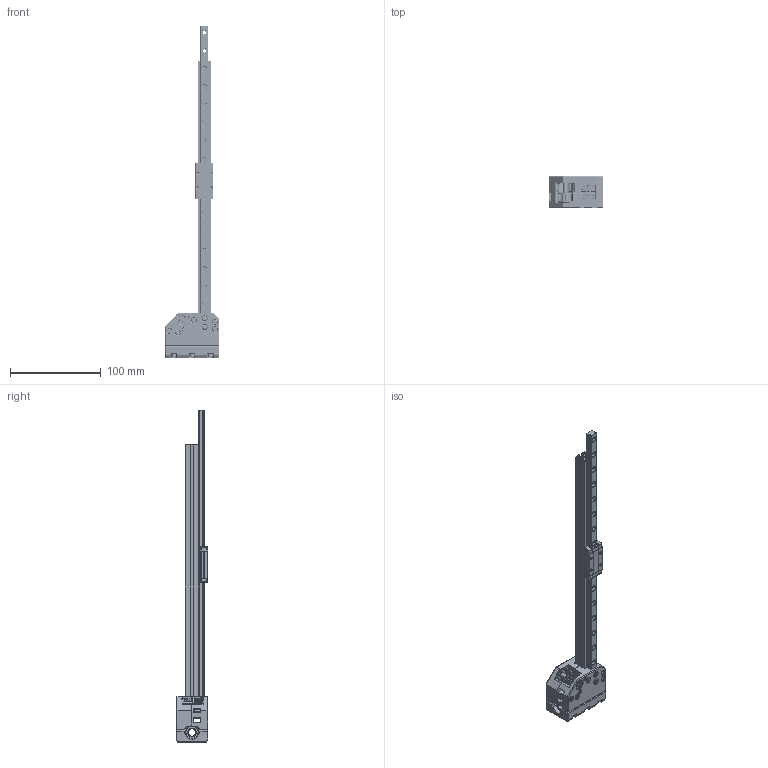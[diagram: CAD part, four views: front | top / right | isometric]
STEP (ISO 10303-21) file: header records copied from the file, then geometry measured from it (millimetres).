
FILE_DESCRIPTION(/* description */ ('FreeCAD Model'),/* implementation_level */ '2;1');
FILE_NAME(/* name */ 'Proosa MGN9 Y-carriers - LM8UU - Live idlers.step',/* time_stamp */ '2026-07-08T19:08:29+02:00',/* author */ (''),/* organization */ (''),/* preprocessor_version */ 'ST-DEVELOPER v20.1',/* originating_system */ 'Autodesk Translation Framework v15.8.0.0',/* authorisation */ '');
FILE_SCHEMA (('AUTOMOTIVE_DESIGN { 1 0 10303 214 3 1 1 }'));
Products named in the file (33): y-carrier-common; 1515 with MGN9H; HIWIN MGN09H1R315Z0HM; MGNR09R315HM; MGN09HZ0HM; 103172; Hardware; Screws; socket head cap screw_am_B18.3.1M - 3 x 0.5 x 30 Hex SHCS -- 18NHX; M3x14-Screw089; VITE_TESTA_BOMBATA_ESAGONO_INCASSATO; VITE_TESTA_BOMBATA_ESAGONO_INCASSATO_1; M3x8-Screw082; Heat inserts; Knurled Insert M3xH4; Componente4; Washer; 0.5mm_shim^drive_core_sherpa_mini_a3_r9c; flat washer narrow_am_B18.22M - Plain washer, 3 mm, narrow; Dowel pins; M3x16 dowel pin; M5x30 dowel pin; Nuts; M3-Nut078; Bearings; F623RS bearing stack; flat washer narrow_am_B18.22M - Plain washer, 3 mm, narrow_1; F623ZZ Flange Bearing; F695 Bearing; 3.Linear Bearing-LM8UU; Pulleys; GT2 20T5B_dz2020; y-carrier-cap004
Assembly tree (67 placements, depth 4):
  y-carrier-common
    1515 with MGN9H
      HIWIN MGN09H1R315Z0HM
        MGNR09R315HM
        MGN09HZ0HM
      103172
    Hardware
      Screws
        socket head cap screw_am_B18.3.1M - 3 x 0.5 x 30 Hex SHCS -- 18NHX  x5
        M3x14-Screw089  x6
        VITE_TESTA_BOMBATA_ESAGONO_INCASSATO  x4
        VITE_TESTA_BOMBATA_ESAGONO_INCASSATO_1  x2
        M3x8-Screw082  x2
      Heat inserts
        Knurled Insert M3xH4  x15
      Componente4
      Washer
        0.5mm_shim^drive_core_sherpa_mini_a3_r9c
        flat washer narrow_am_B18.22M - Plain washer, 3 mm, narrow  x2
      Dowel pins
        M3x16 dowel pin
        M5x30 dowel pin
      Nuts
        M3-Nut078  x4
    Bearings
      F623RS bearing stack
        flat washer narrow_am_B18.22M - Plain washer, 3 mm, narrow_1
        F623ZZ Flange Bearing  x2
      F695 Bearing  x2
      3.Linear Bearing-LM8UU  x2
    Pulleys
      GT2 20T5B_dz2020
    y-carrier-cap004
Bounding box: 60 x 35 x 364.95 mm (x, y, z)
Volume: 133943.8 mm3; surface area: 105788.2 mm2
Topology: 61 solids, 61 shells, 4045 faces, 10192 edges, 6364 vertices
Faces by surface type: plane 1618, cylinder 1271, bspline 884, cone 239, torus 33
Full cylindrical faces by diameter (mm): 1.4 x8, 1.471 x52, 1.868 x56, 2 x1, 2.459 x19, 2.529 x20, 3 x22, 3.086 x16, 3.15 x2, 3.2 x18, 3.3 x12, 3.5 x16, 3.68 x3, 3.734 x30, 4 x15, 4.95 x1, 5 x5, 5.4 x4, 5.5 x11, 6 x29, 6.25 x2, 7 x3, 7.5 x1, 7.9 x4, 8 x2, 9 x4, 10 x3, 11.5 x4, 11.75 x2, 12 x4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
Entity records: 124928 total; most frequent: CARTESIAN_POINT 70524, ORIENTED_EDGE 11734, DIRECTION 10600, EDGE_CURVE 5867, VERTEX_POINT 3856, AXIS2_PLACEMENT_3D 3854, LINE 2892, VECTOR 2892
